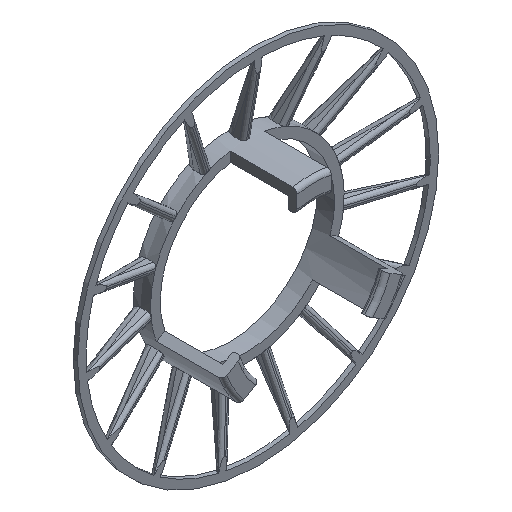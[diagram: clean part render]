
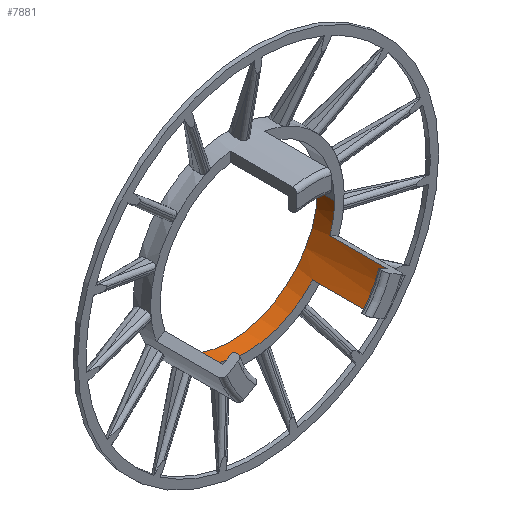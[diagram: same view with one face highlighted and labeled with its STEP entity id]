
A CAD part, isometric view. The second image highlights one B-rep face of the part: STEP entity #7881.
In plain terms, the highlighted cylindrical face has radius 20.25 mm (diameter 40.5 mm), a partial arc.
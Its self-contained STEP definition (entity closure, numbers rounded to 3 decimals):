
#33 = EDGE_CURVE ( 'NONE', #6257, #2073, #5507, .T. ) ;
#188 = VERTEX_POINT ( 'NONE', #4374 ) ;
#264 = VECTOR ( 'NONE', #6011, 1000. ) ;
#382 = VECTOR ( 'NONE', #4964, 1000. ) ;
#405 = DIRECTION ( 'NONE',  ( 1., 0., 0. ) ) ;
#675 = ORIENTED_EDGE ( 'NONE', *, *, #5672, .F. ) ;
#1021 = CARTESIAN_POINT ( 'NONE',  ( -19.191, 46.99, -6.461 ) ) ;
#1023 = CARTESIAN_POINT ( 'NONE',  ( 15.191, 42.955, -13.39 ) ) ;
#1062 = VECTOR ( 'NONE', #1531, 1000. ) ;
#1100 = EDGE_CURVE ( 'NONE', #4008, #8274, #3990, .T. ) ;
#1119 = ORIENTED_EDGE ( 'NONE', *, *, #1100, .T. ) ;
#1129 = EDGE_CURVE ( 'NONE', #4949, #8274, #3819, .T. ) ;
#1252 = CYLINDRICAL_SURFACE ( 'NONE', #1513, 20.25 ) ;
#1341 = CARTESIAN_POINT ( 'NONE',  ( -20.25, 42.955, 0. ) ) ;
#1363 = CARTESIAN_POINT ( 'NONE',  ( -15.191, 42.955, -13.39 ) ) ;
#1512 = ORIENTED_EDGE ( 'NONE', *, *, #33, .F. ) ;
#1513 = AXIS2_PLACEMENT_3D ( 'NONE', #2585, #6693, #2104 ) ;
#1531 = DIRECTION ( 'NONE',  ( 0., 1., 0. ) ) ;
#1538 = EDGE_CURVE ( 'NONE', #2895, #7875, #3621, .T. ) ;
#1774 = VERTEX_POINT ( 'NONE', #8432 ) ;
#1811 = ORIENTED_EDGE ( 'NONE', *, *, #5681, .F. ) ;
#1909 = CARTESIAN_POINT ( 'NONE',  ( -19.191, 42.955, -6.461 ) ) ;
#1956 = DIRECTION ( 'NONE',  ( 0., 1., 0. ) ) ;
#2057 = DIRECTION ( 'NONE',  ( 0., 1., 0. ) ) ;
#2073 = VERTEX_POINT ( 'NONE', #1909 ) ;
#2104 = DIRECTION ( 'NONE',  ( 1., 0., 0. ) ) ;
#2281 = VERTEX_POINT ( 'NONE', #1341 ) ;
#2364 = DIRECTION ( 'NONE',  ( 0., 1., 0. ) ) ;
#2387 = CARTESIAN_POINT ( 'NONE',  ( 19.191, 29.455, -6.461 ) ) ;
#2545 = EDGE_CURVE ( 'NONE', #2895, #4496, #7827, .T. ) ;
#2585 = CARTESIAN_POINT ( 'NONE',  ( 0., 46.99, 0. ) ) ;
#2608 = AXIS2_PLACEMENT_3D ( 'NONE', #7517, #3059, #3626 ) ;
#2657 = ORIENTED_EDGE ( 'NONE', *, *, #1129, .F. ) ;
#2736 = AXIS2_PLACEMENT_3D ( 'NONE', #7927, #2057, #4694 ) ;
#2807 = EDGE_LOOP ( 'NONE', ( #4337, #7096, #675, #1512, #2975, #1119, #2657, #4248, #1811, #4561, #5598, #8196 ) ) ;
#2895 = VERTEX_POINT ( 'NONE', #5322 ) ;
#2903 = DIRECTION ( 'NONE',  ( 1., 0., 0. ) ) ;
#2975 = ORIENTED_EDGE ( 'NONE', *, *, #6094, .F. ) ;
#3059 = DIRECTION ( 'NONE',  ( 0., 1., 0. ) ) ;
#3206 = CARTESIAN_POINT ( 'NONE',  ( -20.25, 46.955, 0. ) ) ;
#3241 = LINE ( 'NONE', #8421, #5489 ) ;
#3341 = DIRECTION ( 'NONE',  ( 0., 1., 0. ) ) ;
#3621 = LINE ( 'NONE', #6126, #382 ) ;
#3626 = DIRECTION ( 'NONE',  ( -1., 0., 0. ) ) ;
#3819 = CIRCLE ( 'NONE', #6444, 20.25 ) ;
#3990 = LINE ( 'NONE', #7878, #7281 ) ;
#3992 = CARTESIAN_POINT ( 'NONE',  ( -20.25, 46.99, 0. ) ) ;
#4007 = CARTESIAN_POINT ( 'NONE',  ( 20.25, 42.955, 0. ) ) ;
#4008 = VERTEX_POINT ( 'NONE', #6489 ) ;
#4069 = DIRECTION ( 'NONE',  ( 1., 0., 0. ) ) ;
#4080 = EDGE_CURVE ( 'NONE', #188, #4949, #3241, .T. ) ;
#4098 = AXIS2_PLACEMENT_3D ( 'NONE', #4305, #2364, #4959 ) ;
#4103 = CARTESIAN_POINT ( 'NONE',  ( 19.191, 46.99, -6.461 ) ) ;
#4119 = AXIS2_PLACEMENT_3D ( 'NONE', #6873, #6915, #405 ) ;
#4248 = ORIENTED_EDGE ( 'NONE', *, *, #4080, .F. ) ;
#4305 = CARTESIAN_POINT ( 'NONE',  ( 0., 46.955, 0. ) ) ;
#4337 = ORIENTED_EDGE ( 'NONE', *, *, #2545, .T. ) ;
#4374 = CARTESIAN_POINT ( 'NONE',  ( 15.191, 29.455, -13.39 ) ) ;
#4399 = AXIS2_PLACEMENT_3D ( 'NONE', #8131, #5016, #2903 ) ;
#4496 = VERTEX_POINT ( 'NONE', #3206 ) ;
#4551 = EDGE_CURVE ( 'NONE', #5275, #1774, #5407, .T. ) ;
#4561 = ORIENTED_EDGE ( 'NONE', *, *, #4551, .T. ) ;
#4694 = DIRECTION ( 'NONE',  ( -1., 0., 0. ) ) ;
#4946 = CIRCLE ( 'NONE', #2608, 20.25 ) ;
#4949 = VERTEX_POINT ( 'NONE', #1023 ) ;
#4959 = DIRECTION ( 'NONE',  ( 1., 0., 0. ) ) ;
#4964 = DIRECTION ( 'NONE',  ( 0., -1., 0. ) ) ;
#5016 = DIRECTION ( 'NONE',  ( 0., 1., 0. ) ) ;
#5069 = CARTESIAN_POINT ( 'NONE',  ( -19.191, 29.455, -6.461 ) ) ;
#5088 = CIRCLE ( 'NONE', #4399, 20.25 ) ;
#5262 = FACE_OUTER_BOUND ( 'NONE', #2807, .T. ) ;
#5275 = VERTEX_POINT ( 'NONE', #2387 ) ;
#5322 = CARTESIAN_POINT ( 'NONE',  ( 20.25, 46.955, 0. ) ) ;
#5407 = LINE ( 'NONE', #4103, #264 ) ;
#5489 = VECTOR ( 'NONE', #5882, 1000. ) ;
#5507 = LINE ( 'NONE', #1021, #1062 ) ;
#5598 = ORIENTED_EDGE ( 'NONE', *, *, #7192, .F. ) ;
#5672 = EDGE_CURVE ( 'NONE', #2073, #2281, #6192, .T. ) ;
#5681 = EDGE_CURVE ( 'NONE', #5275, #188, #4946, .T. ) ;
#5882 = DIRECTION ( 'NONE',  ( 0., 1., 0. ) ) ;
#5984 = DIRECTION ( 'NONE',  ( 0., -1., 0. ) ) ;
#6011 = DIRECTION ( 'NONE',  ( 0., 1., 0. ) ) ;
#6064 = VECTOR ( 'NONE', #5984, 1000. ) ;
#6094 = EDGE_CURVE ( 'NONE', #4008, #6257, #7708, .T. ) ;
#6126 = CARTESIAN_POINT ( 'NONE',  ( 20.25, 46.99, 0. ) ) ;
#6192 = CIRCLE ( 'NONE', #4119, 20.25 ) ;
#6257 = VERTEX_POINT ( 'NONE', #5069 ) ;
#6444 = AXIS2_PLACEMENT_3D ( 'NONE', #6715, #3341, #4069 ) ;
#6489 = CARTESIAN_POINT ( 'NONE',  ( -15.191, 29.455, -13.39 ) ) ;
#6693 = DIRECTION ( 'NONE',  ( 0., -1., 0. ) ) ;
#6715 = CARTESIAN_POINT ( 'NONE',  ( 0., 42.955, 0. ) ) ;
#6873 = CARTESIAN_POINT ( 'NONE',  ( 0., 42.955, 0. ) ) ;
#6915 = DIRECTION ( 'NONE',  ( 0., 1., 0. ) ) ;
#7096 = ORIENTED_EDGE ( 'NONE', *, *, #8182, .T. ) ;
#7102 = LINE ( 'NONE', #3992, #6064 ) ;
#7192 = EDGE_CURVE ( 'NONE', #7875, #1774, #5088, .T. ) ;
#7281 = VECTOR ( 'NONE', #1956, 1000. ) ;
#7517 = CARTESIAN_POINT ( 'NONE',  ( 0., 29.455, 0. ) ) ;
#7708 = CIRCLE ( 'NONE', #2736, 20.25 ) ;
#7827 = CIRCLE ( 'NONE', #4098, 20.25 ) ;
#7875 = VERTEX_POINT ( 'NONE', #4007 ) ;
#7878 = CARTESIAN_POINT ( 'NONE',  ( -15.191, 46.99, -13.39 ) ) ;
#7881 = ADVANCED_FACE ( 'NONE', ( #5262 ), #1252, .F. ) ;
#7927 = CARTESIAN_POINT ( 'NONE',  ( 0., 29.455, 0. ) ) ;
#8131 = CARTESIAN_POINT ( 'NONE',  ( 0., 42.955, 0. ) ) ;
#8182 = EDGE_CURVE ( 'NONE', #4496, #2281, #7102, .T. ) ;
#8196 = ORIENTED_EDGE ( 'NONE', *, *, #1538, .F. ) ;
#8274 = VERTEX_POINT ( 'NONE', #1363 ) ;
#8421 = CARTESIAN_POINT ( 'NONE',  ( 15.191, 46.99, -13.39 ) ) ;
#8432 = CARTESIAN_POINT ( 'NONE',  ( 19.191, 42.955, -6.461 ) ) ;
